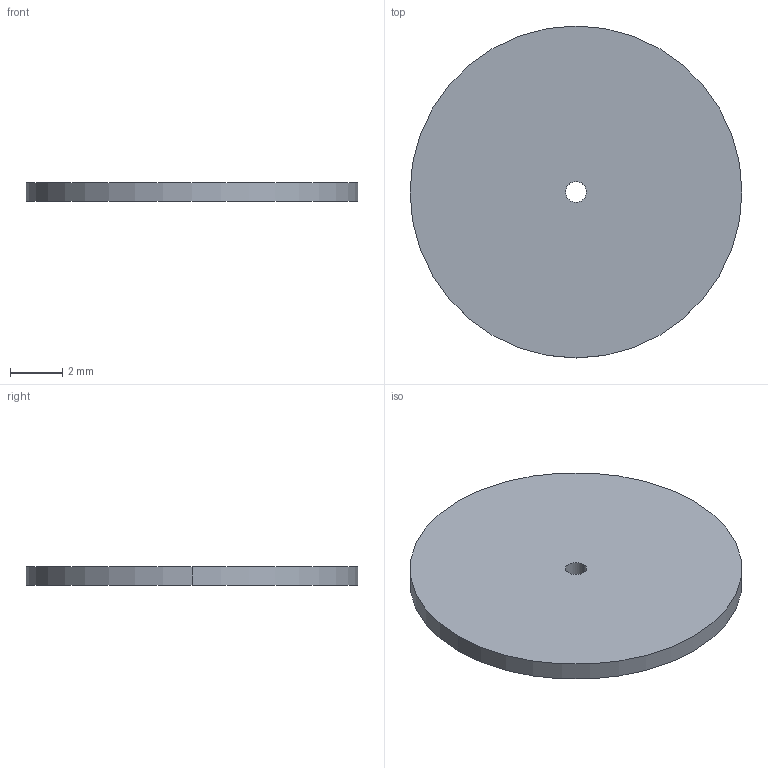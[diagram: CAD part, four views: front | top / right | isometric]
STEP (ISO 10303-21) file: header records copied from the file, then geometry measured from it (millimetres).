
FILE_DESCRIPTION((''),'2;1');
FILE_NAME('08MM','2022-04-24T',('Administrator'),(''),'CREO PARAMETRIC BY PTC INC, 2015290','CREO PARAMETRIC BY PTC INC, 2015290','');
FILE_SCHEMA(('CONFIG_CONTROL_DESIGN'));
Length unit declared in the file: millimetre
Products named in the file (1): 08MM
Bounding box: 12.7 x 12.7 x 0.7 mm (x, y, z)
Volume: 88.3 mm3; surface area: 282 mm2
Topology: 1 solids, 1 shells, 6 faces, 12 edges, 8 vertices
Faces by surface type: cylinder 4, plane 2
Entity records: 206 total; most frequent: DIRECTION 32, CARTESIAN_POINT 26, ORIENTED_EDGE 24, AXIS2_PLACEMENT_3D 14, EDGE_CURVE 12, VERTEX_POINT 8, EDGE_LOOP 8, CIRCLE 8
